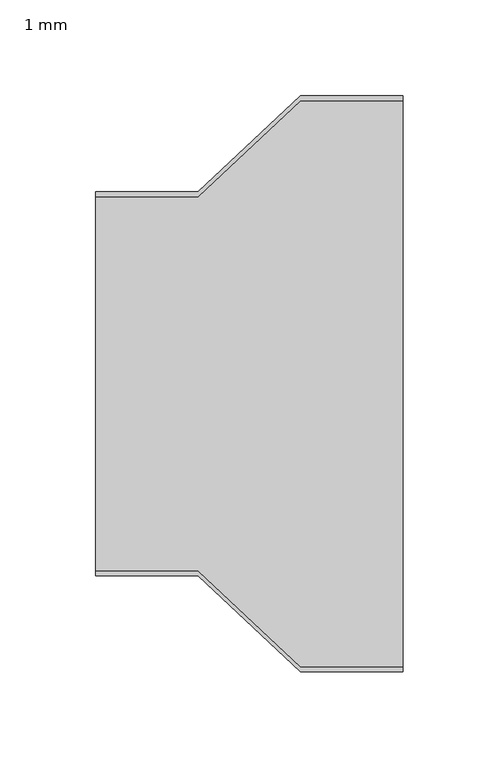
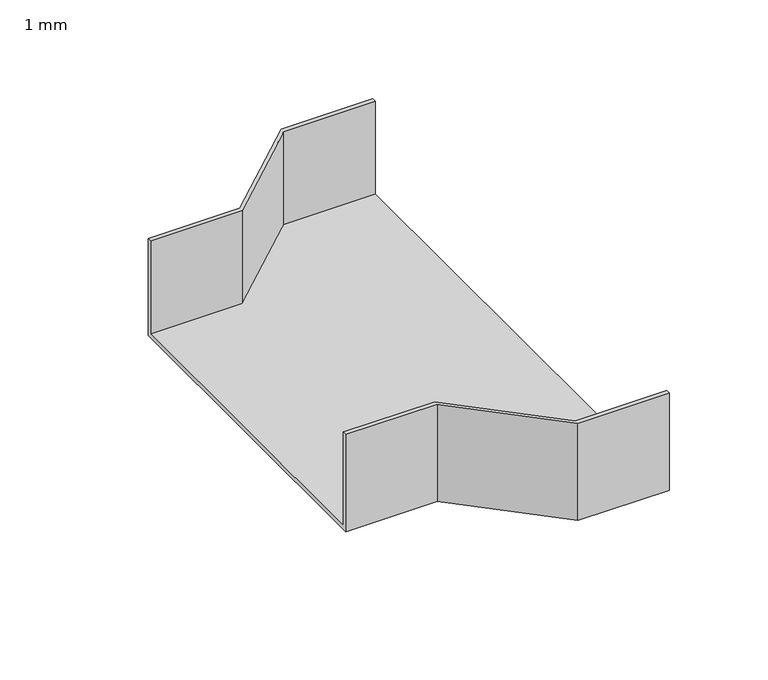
"""IFC4 building model written with IfcOpenShell, lengths in millimetres: cable carrier fitting geometry, BAKS_Redukcja KLIK : 1 mm."""

from ifc_helpers import new_model, si_unit, origin, place, context, project, spatial, faceted_brep, source, transform, mapped, element, save


def cable_carrier_fitting_1_mm_447bc4b9(model_context):
    return source(origin(), model_context, "Body", "Brep", [
        faceted_brep([(0.0, -100.0, -30.0), (0.0, -100.0, 30.0), (0.0, -97.46, 30.0), (0.0, -97.46, -27.46), (0.0, 97.46, -27.46), (0.0, 97.46, 30.0), (0.0, 100.0, 30.0), (0.0, 100.0, -30.0), (160.0, -150.0, -30.0), (160.0, 150.0, -30.0), (160.0, 150.0, 30.0), (160.0, 147.46, 30.0), (160.0, 147.46, -27.46), (160.0, -147.46, -27.46), (160.0, -147.46, 30.0), (160.0, -150.0, 30.0), (53.3333333, -100.0, -30.0), (53.3333333, -100.0, 30.0), (106.6666667, -150.0, 30.0), (106.6666667, -147.46, 30.0), (53.3333333, -97.46, 30.0), (53.3333333, -97.46, -27.46), (106.6666667, -147.46, -27.46), (106.6666667, 147.46, -27.46), (53.3333333, 97.46, -27.46), (53.3333333, 97.46, 30.0), (106.6666667, 147.46, 30.0), (106.6666667, 150.0, 30.0), (53.3333333, 100.0, 30.0), (53.3333333, 100.0, -30.0), (106.6666667, 150.0, -30.0), (106.6666667, -150.0, -30.0)], [[[0, 1, 2, 3, 4, 5, 6, 7]], [[8, 9, 10, 11, 12, 13, 14, 15]], [[1, 0, 16, 17]], [[2, 1, 17, 18, 15, 14, 19, 20]], [[3, 2, 20, 21]], [[4, 3, 21, 22, 13, 12, 23, 24]], [[5, 4, 24, 25]], [[6, 5, 25, 26, 11, 10, 27, 28]], [[7, 6, 28, 29]], [[0, 7, 29, 30, 9, 8, 31, 16]], [[8, 15, 18, 31]], [[14, 13, 22, 19]], [[12, 11, 26, 23]], [[10, 9, 30, 27]], [[30, 29, 28, 27]], [[26, 25, 24, 23]], [[22, 21, 20, 19]], [[16, 31, 18, 17]]]),
    ])


if __name__ == "__main__":
    model = new_model("IFC4")
    model_context = context("Model", 3, world=origin())
    ifc_project = project(units=[si_unit("LENGTHUNIT", "METRE", prefix="MILLI")], contexts=[model_context])
    site = spatial("IfcSite", under=ifc_project)
    building = spatial("IfcBuilding", under=site)
    placement = place(None, origin())
    cable_carrier_fitting_1_mm_shape = cable_carrier_fitting_1_mm_447bc4b9(model_context)
    element("IfcCableCarrierFitting", 1, ObjectType="BAKS_Redukcja KLIK : 1 mm", at=placement, inside=building, context=model_context, shape_type="MappedRepresentation", body=[
        mapped(cable_carrier_fitting_1_mm_shape, transform((0.0, 0.0, 0.0), x_axis=(1.0, 0.0, 0.0), y_axis=(0.0, 1.0, 0.0), z_axis=(0.0, 0.0, 1.0))),
    ])
    save(model, "model.ifc")
